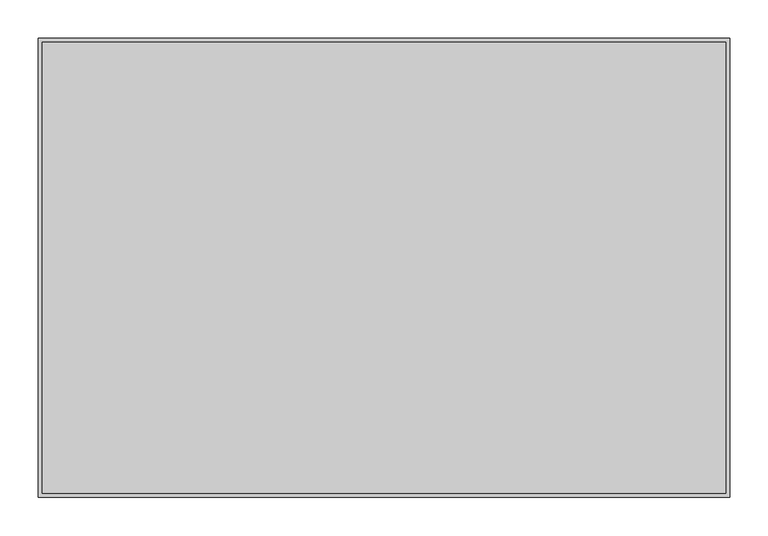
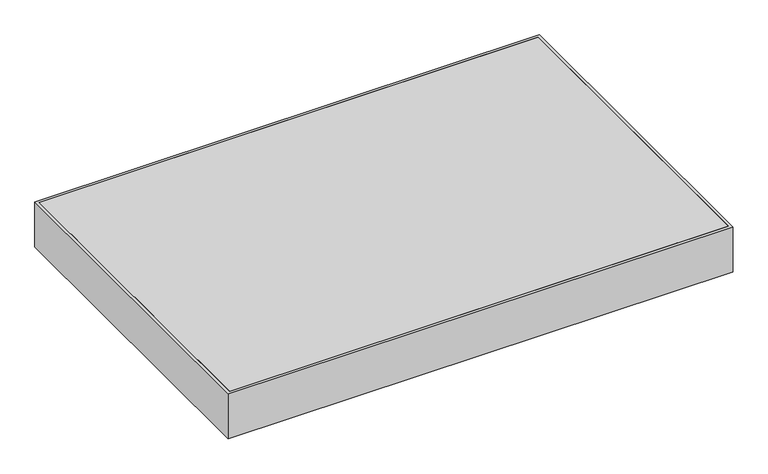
"""IFC4 building model written with IfcOpenShell, lengths in millimetres: proxy geometry, 10863370_RU_DA6698D_BRWS : 28669835_RU_10863370_DA6698D_BRWS."""

from ifc_helpers import new_model, si_unit, point, frame, frame_2d, origin, origin_with_axes, place, context, project, spatial, polyline, circle_curve, trimmed, segment, composite_curve, outline, extrude, faceted_brep, source, transform, mapped, element, save


def specialty_equipment_4a9dfeaa(model_context):
    return source(origin(), model_context, "Body", "SolidModel", [
        extrude(outline(polyline([(102.6666667, 256.0), (102.6666667, -256.0), (-102.6666667, -256.0), (-102.6666667, 256.0), (102.6666667, 256.0)])), frame((0.0, 0.0, 7.5), z_axis=(0.0, 0.0, 1.0), x_axis=(1.0, 0.0, 0.0)), (0.0, 0.0, 1.0), 6.0),
        extrude(outline(polyline([(-120.6666667, 256.0), (-120.6666667, -256.0), (-326.0, -256.0), (-326.0, 256.0), (-120.6666667, 256.0)])), frame((0.0, 0.0, 7.5), z_axis=(0.0, 0.0, 1.0), x_axis=(1.0, 0.0, 0.0)), (0.0, 0.0, 1.0), 6.0),
        extrude(outline(polyline([(335.0, 265.0), (335.0, -265.0), (111.6666667, -265.0), (111.6666667, 265.0), (335.0, 265.0)]), holes=[polyline([(326.0, 256.0), (120.6666667, 256.0), (120.6666667, -256.0), (326.0, -256.0), (326.0, 256.0)])]), frame((0.0, 0.0, 6.0), z_axis=(0.0, 0.0, 1.0), x_axis=(1.0, 0.0, 0.0)), (0.0, 0.0, 1.0), 9.0),
        extrude(outline(polyline([(111.6666667, 265.0), (111.6666667, -265.0), (-111.6666667, -265.0), (-111.6666667, 265.0), (111.6666667, 265.0)]), holes=[polyline([(102.6666667, 256.0), (-102.6666667, 256.0), (-102.6666667, -256.0), (102.6666667, -256.0), (102.6666667, 256.0)])]), frame((0.0, 0.0, 6.0), z_axis=(0.0, 0.0, 1.0), x_axis=(1.0, 0.0, 0.0)), (0.0, 0.0, 1.0), 9.0),
        extrude(outline(polyline([(-111.6666667, 265.0), (-111.6666667, -265.0), (-335.0, -265.0), (-335.0, 265.0), (-111.6666667, 265.0)]), holes=[polyline([(-120.6666667, 256.0), (-326.0, 256.0), (-326.0, -256.0), (-120.6666667, -256.0), (-120.6666667, 256.0)])]), frame((0.0, 0.0, 6.0), z_axis=(0.0, 0.0, 1.0), x_axis=(1.0, 0.0, 0.0)), (0.0, 0.0, 1.0), 9.0),
        extrude(outline(polyline([(239.8333333, -213.0), (239.8333333, -256.0), (206.8333333, -256.0), (206.8333333, -213.0), (239.8333333, -213.0)]), holes=[polyline([(213.8333333, -249.0), (232.8333333, -249.0), (232.8333333, -220.0), (213.8333333, -220.0), (213.8333333, -249.0)])]), frame((0.0, 0.0, 13.5), z_axis=(0.0, 0.0, 1.0), x_axis=(1.0, 0.0, 0.0)), (0.0, 0.0, 1.0), 1.5),
        extrude(outline(polyline([(16.5, -213.0), (16.5, -256.0), (-16.5, -256.0), (-16.5, -213.0), (16.5, -213.0)]), holes=[polyline([(-9.5, -220.0), (-9.5, -249.0), (9.5, -249.0), (9.5, -220.0), (-9.5, -220.0)])]), frame((0.0, 0.0, 13.5), z_axis=(0.0, 0.0, 1.0), x_axis=(1.0, 0.0, 0.0)), (0.0, 0.0, 1.0), 1.5),
        extrude(outline(polyline([(-206.8333333, -213.0), (-206.8333333, -256.0), (-239.8333333, -256.0), (-239.8333333, -213.0), (-206.8333333, -213.0)]), holes=[polyline([(-213.8333333, -220.0), (-232.8333333, -220.0), (-232.8333333, -249.0), (-213.8333333, -249.0), (-213.8333333, -220.0)])]), frame((0.0, 0.0, 13.5), z_axis=(0.0, 0.0, 1.0), x_axis=(1.0, 0.0, 0.0)), (0.0, 0.0, 1.0), 1.5),
        faceted_brep([(416.0, 265.0, 19.0), (416.0, -265.0, 19.0), (-416.0, -265.0, 19.0), (-416.0, 265.0, 19.0), (-416.0, 265.0, 0.0), (416.0, 265.0, 0.0), (-416.0, -265.0, 0.0), (416.0, -265.0, 0.0), (444.0, 293.0, 85.0), (-444.0, 293.0, 85.0), (-444.0, -293.0, 85.0), (444.0, -293.0, 85.0), (444.0, 293.0, 0.0), (444.0, -293.0, 0.0), (-444.0, -293.0, 0.0), (-444.0, 293.0, 0.0)], [[[0, 1, 2, 3]], [[0, 3, 4, 5]], [[3, 2, 6, 4]], [[2, 1, 7, 6]], [[1, 0, 5, 7]], [[8, 9, 10, 11]], [[12, 13, 14, 15], [5, 4, 6, 7]], [[9, 8, 12, 15]], [[10, 9, 15, 14]], [[11, 10, 14, 13]], [[8, 11, 13, 12]]]),
        extrude(outline(polyline([(449.0, 298.0), (449.0, -298.0), (-449.0, -298.0), (-449.0, 298.0), (449.0, 298.0)]), holes=[polyline([(-444.0, 293.0), (-444.0, -293.0), (444.0, -293.0), (444.0, 293.0), (-444.0, 293.0)])]), origin_with_axes(), (0.0, 0.0, 1.0), 85.0),
        extrude(outline(composite_curve([segment(polyline([(19.0, -416.0), (2.0, -416.0), (18.4833395, -354.4833395), (2.5, -338.5)]), True, "CONTINUOUS"), segment(trimmed(circle_curve(frame_2d((4.125934, -337.1254003)), 2.1291279), [point((2.5, -338.5))], [point((4.0, -335.0))], False, "CARTESIAN"), True, "CONTINUOUS"), segment(polyline([(4.0, -335.0), (19.0, -335.0), (19.0, -416.0)]), True, "CONTINUOUS")], self_intersect=False)), frame((0.0, -265.0, 0.0), z_axis=(0.0, 1.0, 0.0), x_axis=(0.0, 0.0, 1.0)), (0.0, 0.0, 1.0), 530.0),
        extrude(outline(composite_curve([segment(polyline([(19.0, 416.0), (19.0, 335.0), (4.0, 335.0)]), True, "CONTINUOUS"), segment(trimmed(circle_curve(frame_2d((4.125934, 337.1254003)), 2.1291279), [point((4.0, 335.0))], [point((2.5, 338.5))], False, "CARTESIAN"), True, "CONTINUOUS"), segment(polyline([(2.5, 338.5), (18.4833395, 354.4833395), (2.0, 416.0), (19.0, 416.0)]), True, "CONTINUOUS")], self_intersect=False)), frame((0.0, -265.0, 0.0), z_axis=(0.0, 1.0, 0.0), x_axis=(0.0, 0.0, 1.0)), (0.0, 0.0, 1.0), 530.0),
    ])


if __name__ == "__main__":
    model = new_model("IFC4")
    model_context = context("Model", 3, world=origin())
    ifc_project = project(units=[si_unit("LENGTHUNIT", "METRE", prefix="MILLI")], contexts=[model_context])
    site = spatial("IfcSite", under=ifc_project)
    building = spatial("IfcBuilding", under=site)
    placement = place(None, origin())
    specialty_equipment_shape = specialty_equipment_4a9dfeaa(model_context)
    element("IfcBuildingElementProxy", 1, Name="10863370_RU_DA6698D_BRWS : 28669835_RU_10863370_DA6698D_BRWS", ObjectType="10863370_RU_DA6698D_BRWS : 28669835_RU_10863370_DA6698D_BRWS", at=placement, inside=building, context=model_context, shape_type="MappedRepresentation", body=[
        mapped(specialty_equipment_shape, transform((0.0, 0.0, 0.0), x_axis=(1.0, 0.0, 0.0), y_axis=(0.0, 1.0, 0.0), z_axis=(0.0, 0.0, 1.0))),
    ])
    save(model, "model.ifc")
